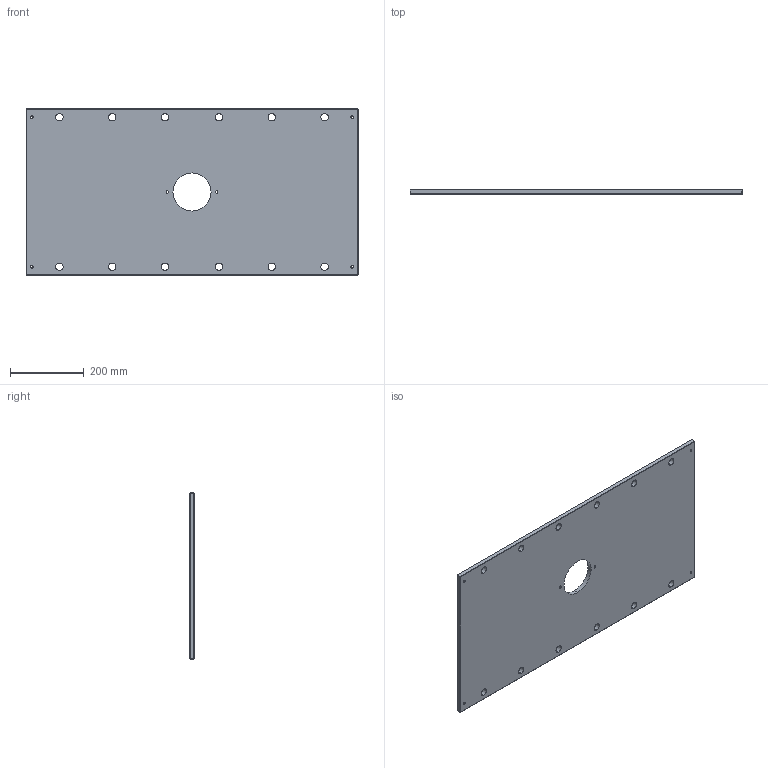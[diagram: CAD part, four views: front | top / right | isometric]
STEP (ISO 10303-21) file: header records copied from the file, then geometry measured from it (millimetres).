
FILE_DESCRIPTION (( 'STEP AP214' ), '1' );
FILE_NAME ('ME-0619-CH-1835.STEP', '2020-02-13T10:00:57', ( '' ), ( '' ), 'SwSTEP 2.0', 'SolidWorks 2018', '' );
FILE_SCHEMA (( 'AUTOMOTIVE_DESIGN' ));
Length unit declared in the file: inch
Products named in the file (1): ME-0619-CH-1835
Bounding box: 898.52 x 12.7 x 450.85 mm (x, y, z)
Volume: 4983028.3 mm3; surface area: 830931.1 mm2
Topology: 1 solids, 1 shells, 76 faces, 186 edges, 112 vertices
Faces by surface type: cylinder 38, plane 26, cone 12
Entity records: 2346 total; most frequent: DIRECTION 428, CARTESIAN_POINT 375, ORIENTED_EDGE 372, EDGE_CURVE 186, AXIS2_PLACEMENT_3D 165, EDGE_LOOP 114, VERTEX_POINT 112, VECTOR 98
